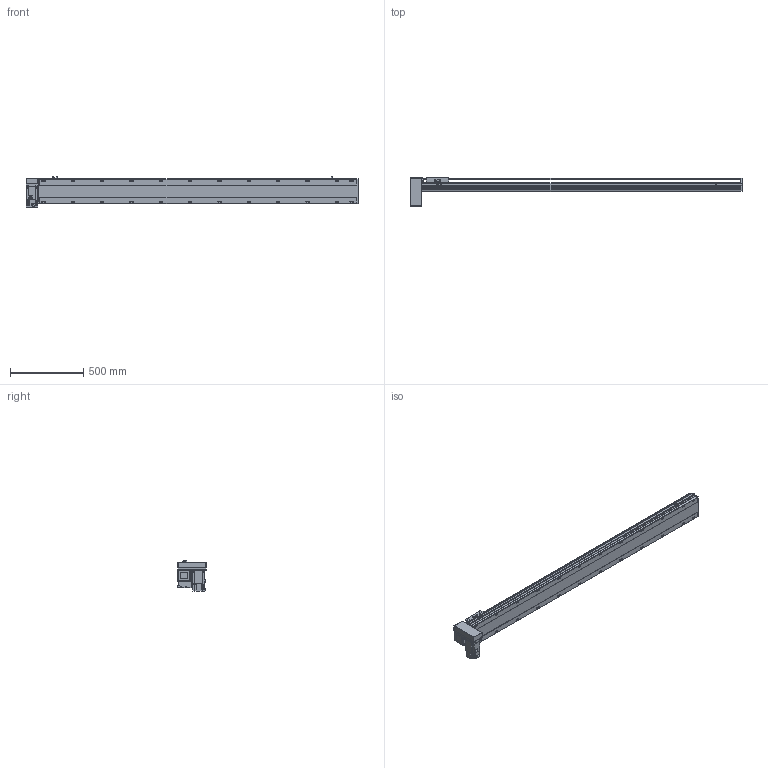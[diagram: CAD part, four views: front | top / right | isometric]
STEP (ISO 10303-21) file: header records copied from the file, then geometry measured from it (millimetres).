
FILE_DESCRIPTION(/* description */ ('STEP AP214'),/* implementation_level */ '2;1');
FILE_NAME(/* name */ 'PBS170-P40-S1900-RD-T75-C1-N(0)',/* time_stamp */ '2022-06-08T07:36:52+02:00',/* author */ ('License CC BY-ND 4.0'),/* organization */ ('CADENAS'),/* preprocessor_version */ 'ST-DEVELOPER v18.102',/* originating_system */ 'PARTsolutions',/* authorisation */ ' ');
FILE_SCHEMA (('AUTOMOTIVE_DESIGN {1 0 10303 214 3 1 1}'));
Length unit declared in the file: millimetre
Products named in the file (7): PBS170-P40-S1900-RD-T75-C1-N(0); PBS170_sensor; PBS170_plant; PBS170_sliser; T75-p1; PBS170T-RD_motors; PBS170-S1900()_body
Assembly tree (8 placements, depth 2):
  PBS170-P40-S1900-RD-T75-C1-N(0)
    PBS170_sensor  x3
    PBS170_plant
    PBS170_sliser
    T75-p1
    PBS170T-RD_motors
    PBS170-S1900()_body
Bounding box: 2263 x 201 x 205.3 mm (x, y, z)
Volume: 17402112.5 mm3; surface area: 2214293.6 mm2
Topology: 8 solids, 8 shells, 1146 faces, 3035 edges, 1978 vertices
Faces by surface type: plane 711, cylinder 371, cone 54, sphere 8, torus 2
Full cylindrical faces by diameter (mm): 3.242 x4, 4 x2, 4.4 x4, 4.5 x6, 4.917 x4, 6 x9, 6.647 x32, 7 x2, 7.5 x4, 8 x8, 8.5 x24, 10 x4, 10.5 x24, 11 x2, 30 x2, 40 x1, 70 x1
Entity records: 32950 total; most frequent: CARTESIAN_POINT 6161, DIRECTION 5580, ORIENTED_EDGE 5268, EDGE_CURVE 2634, AXIS2_PLACEMENT_3D 1957, VERTEX_POINT 1826, LINE 1666, VECTOR 1666
